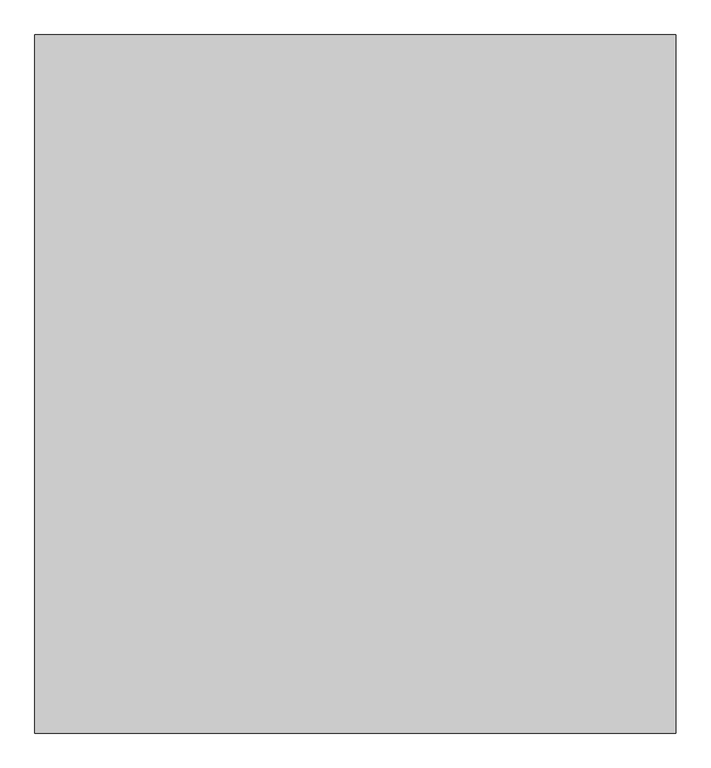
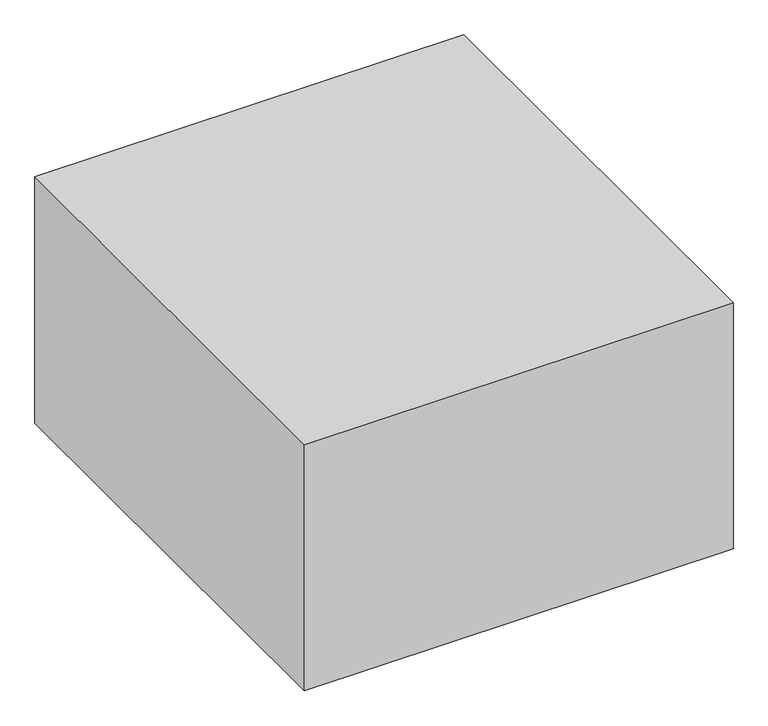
"""IFC4 building model written with IfcOpenShell, lengths in millimetres: proxy geometry."""

from ifc_helpers import new_model, si_unit, frame, origin, place, context, project, spatial, polyline, outline, extrude, source, transform, mapped, element, save


def generic_models_5ffe5964(model_context):
    return source(origin(), model_context, "Body", "SweptSolid", [
        extrude(outline(polyline([(11700.3255805, -1529.0), (8900.6781692, -1529.0), (8900.6781692, 1519.0), (11700.3255805, 1519.0), (11700.3255805, -1529.0)])), frame((0.0, 0.0, 800.0), z_axis=(0.0, 0.0, 1.0), x_axis=(1.0, 0.0, 0.0)), (0.0, 0.0, 1.0), 1700.0),
    ])


if __name__ == "__main__":
    model = new_model("IFC4")
    model_context = context("Model", 3, world=origin())
    ifc_project = project(units=[si_unit("LENGTHUNIT", "METRE", prefix="MILLI")], contexts=[model_context])
    site = spatial("IfcSite", under=ifc_project)
    building = spatial("IfcBuilding", under=site)
    placement = place(None, origin())
    generic_models_shape = generic_models_5ffe5964(model_context)
    element("IfcBuildingElementProxy", 1, Name="Generic Models", at=placement, inside=building, context=model_context, shape_type="MappedRepresentation", body=[
        mapped(generic_models_shape, transform((0.0, 0.0, 0.0), x_axis=(1.0, 0.0, 0.0), y_axis=(0.0, 1.0, 0.0), z_axis=(0.0, 0.0, 1.0))),
    ])
    save(model, "model.ifc")
